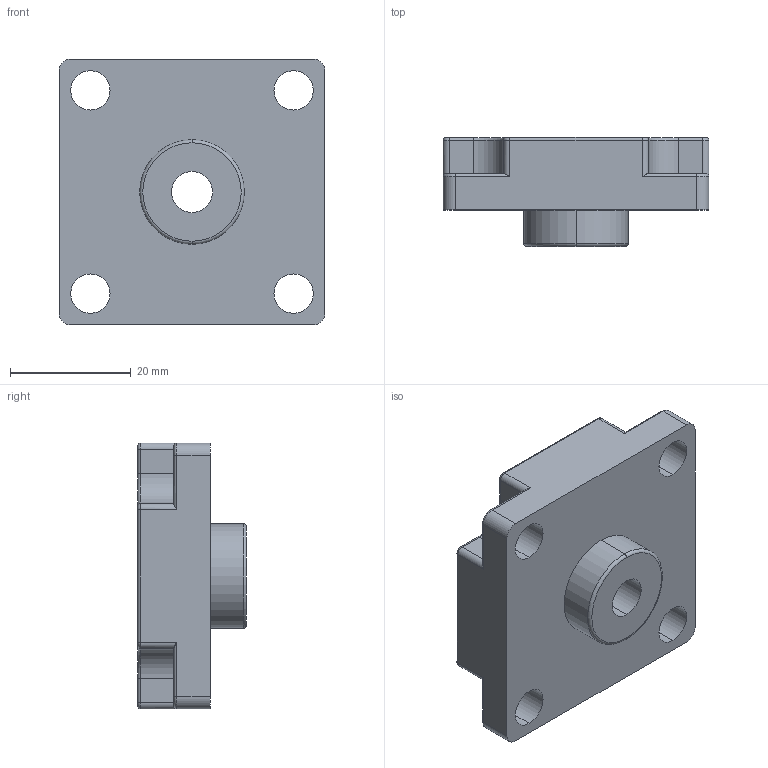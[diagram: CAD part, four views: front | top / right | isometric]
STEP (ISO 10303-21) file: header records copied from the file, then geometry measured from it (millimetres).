
FILE_DESCRIPTION (( 'STEP AP214' ), '1' );
FILE_NAME ('FBFE 44M8.step', '2017-04-05T08:02:43', ( '' ), ( '' ), 'SwSTEP 2.0', 'SolidWorks 2015', '' );
FILE_SCHEMA (( 'AUTOMOTIVE_DESIGN' ));
Length unit declared in the file: millimetre
Products named in the file (1): FBFE 44M8
Bounding box: 44 x 18 x 44 mm (x, y, z)
Volume: 20806.4 mm3; surface area: 6676.3 mm2
Topology: 1 solids, 1 shells, 88 faces, 218 edges, 134 vertices
Faces by surface type: cylinder 48, plane 20, torus 18, cone 2
Entity records: 2746 total; most frequent: CARTESIAN_POINT 505, DIRECTION 500, ORIENTED_EDGE 436, EDGE_CURVE 218, AXIS2_PLACEMENT_3D 201, VERTEX_POINT 134, CIRCLE 112, EDGE_LOOP 100
